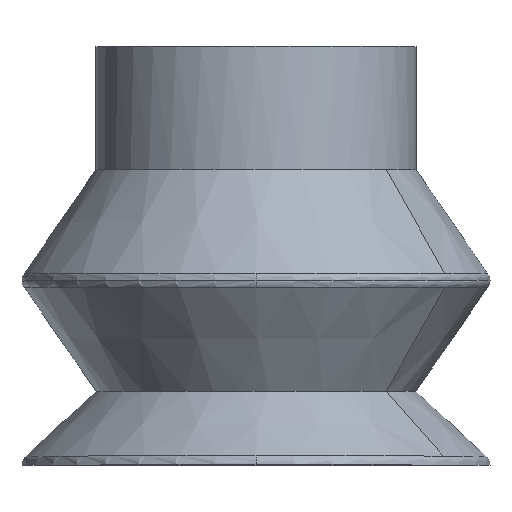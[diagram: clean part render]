
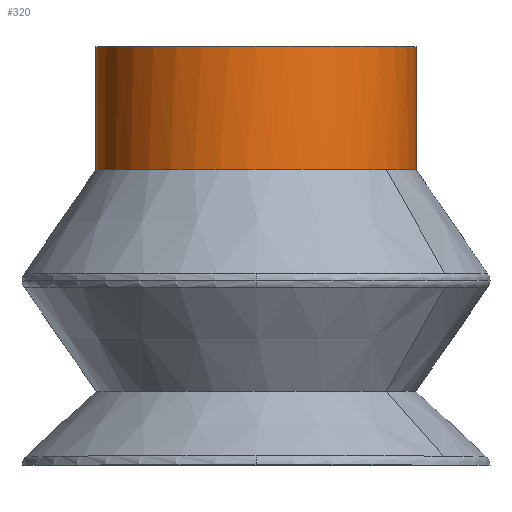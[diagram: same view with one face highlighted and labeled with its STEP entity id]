
A CAD part, top view. The second image highlights one B-rep face of the part: STEP entity #320.
In plain terms, the highlighted cylindrical face has radius 6.5 mm (diameter 13 mm), a partial arc.
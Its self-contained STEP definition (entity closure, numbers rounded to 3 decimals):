
#39 = ORIENTED_EDGE ( 'NONE', *, *, #571, .T. ) ;
#44 = ORIENTED_EDGE ( 'NONE', *, *, #498, .F. ) ;
#61 = DIRECTION ( 'NONE',  ( 0., -1., 0. ) ) ;
#68 = VERTEX_POINT ( 'NONE', #186 ) ;
#92 = CIRCLE ( 'NONE', #398, 6.5 ) ;
#94 = AXIS2_PLACEMENT_3D ( 'NONE', #580, #455, #670 ) ;
#103 = ORIENTED_EDGE ( 'NONE', *, *, #162, .T. ) ;
#126 = ORIENTED_EDGE ( 'NONE', *, *, #360, .F. ) ;
#155 = DIRECTION ( 'NONE',  ( 0., -1., 0. ) ) ;
#162 = EDGE_CURVE ( 'NONE', #369, #68, #634, .T. ) ;
#186 = CARTESIAN_POINT ( 'NONE',  ( 12.084, 47.416, 0. ) ) ;
#222 = CARTESIAN_POINT ( 'NONE',  ( 12.084, 52.416, 0. ) ) ;
#263 = DIRECTION ( 'NONE',  ( 0., -1., 0. ) ) ;
#290 = DIRECTION ( 'NONE',  ( -1., 0., 0. ) ) ;
#301 = CARTESIAN_POINT ( 'NONE',  ( 18.584, 47.416, 0. ) ) ;
#320 = ADVANCED_FACE ( 'NONE', ( #382 ), #386, .T. ) ;
#360 = EDGE_CURVE ( 'NONE', #586, #672, #704, .T. ) ;
#369 = VERTEX_POINT ( 'NONE', #222 ) ;
#382 = FACE_OUTER_BOUND ( 'NONE', #658, .T. ) ;
#386 = CYLINDRICAL_SURFACE ( 'NONE', #94, 6.5 ) ;
#398 = AXIS2_PLACEMENT_3D ( 'NONE', #620, #61, #636 ) ;
#400 = CIRCLE ( 'NONE', #828, 6.5 ) ;
#403 = AXIS2_PLACEMENT_3D ( 'NONE', #301, #744, #290 ) ;
#417 = CARTESIAN_POINT ( 'NONE',  ( 23.874, 47.416, 3.777 ) ) ;
#436 = ORIENTED_EDGE ( 'NONE', *, *, #480, .T. ) ;
#455 = DIRECTION ( 'NONE',  ( 0., 1., 0. ) ) ;
#472 = VECTOR ( 'NONE', #833, 1000. ) ;
#480 = EDGE_CURVE ( 'NONE', #586, #511, #674, .T. ) ;
#498 = EDGE_CURVE ( 'NONE', #672, #68, #400, .T. ) ;
#511 = VERTEX_POINT ( 'NONE', #607 ) ;
#571 = EDGE_CURVE ( 'NONE', #511, #369, #92, .T. ) ;
#580 = CARTESIAN_POINT ( 'NONE',  ( 18.584, 52.416, 0. ) ) ;
#586 = VERTEX_POINT ( 'NONE', #646 ) ;
#607 = CARTESIAN_POINT ( 'NONE',  ( 25.084, 52.416, 0. ) ) ;
#620 = CARTESIAN_POINT ( 'NONE',  ( 18.584, 52.416, 0. ) ) ;
#634 = LINE ( 'NONE', #908, #855 ) ;
#636 = DIRECTION ( 'NONE',  ( -1., 0., 0. ) ) ;
#646 = CARTESIAN_POINT ( 'NONE',  ( 25.084, 47.416, 0. ) ) ;
#658 = EDGE_LOOP ( 'NONE', ( #103, #44, #126, #436, #39 ) ) ;
#670 = DIRECTION ( 'NONE',  ( -1., 0., 0. ) ) ;
#672 = VERTEX_POINT ( 'NONE', #417 ) ;
#674 = LINE ( 'NONE', #824, #472 ) ;
#683 = CARTESIAN_POINT ( 'NONE',  ( 18.584, 47.416, 0. ) ) ;
#704 = CIRCLE ( 'NONE', #403, 6.5 ) ;
#744 = DIRECTION ( 'NONE',  ( 0., -1., 0. ) ) ;
#819 = DIRECTION ( 'NONE',  ( -1., 0., 0. ) ) ;
#824 = CARTESIAN_POINT ( 'NONE',  ( 25.084, 52.416, 0. ) ) ;
#828 = AXIS2_PLACEMENT_3D ( 'NONE', #683, #263, #819 ) ;
#833 = DIRECTION ( 'NONE',  ( 0., 1., 0. ) ) ;
#855 = VECTOR ( 'NONE', #155, 1000. ) ;
#908 = CARTESIAN_POINT ( 'NONE',  ( 12.084, 52.416, 0. ) ) ;
